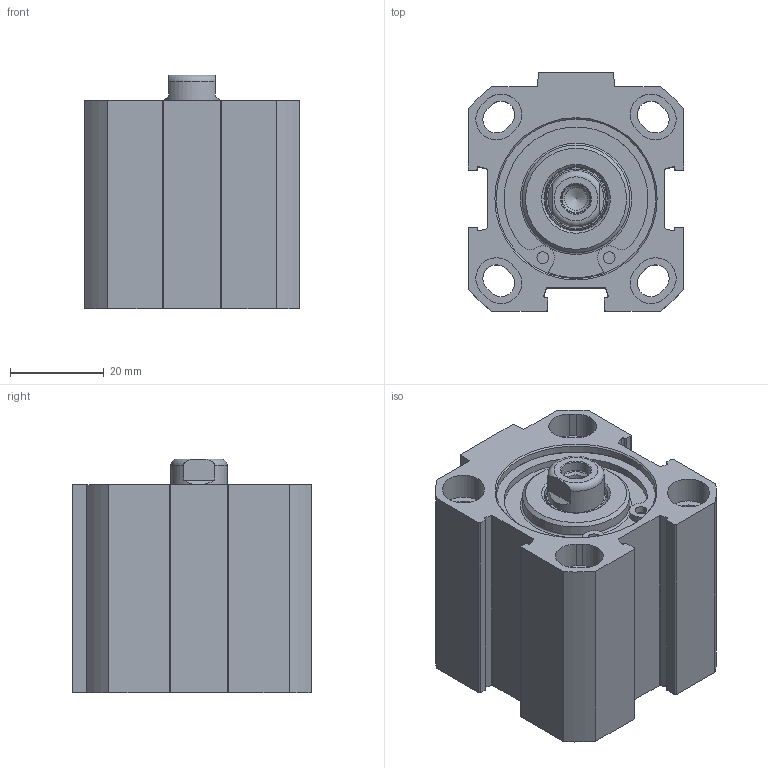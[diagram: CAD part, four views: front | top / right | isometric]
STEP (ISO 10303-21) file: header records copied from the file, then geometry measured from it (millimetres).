
FILE_DESCRIPTION(/* description */ ('Unknown'),/* implementation_level */ '2;1');
FILE_NAME(/* name */ 'FEN 32_5',/* time_stamp */ '2026-06-09T09:54:31+02:00',/* author */ ('Unknown'),/* organization */ ('Unknown'),/* preprocessor_version */ 'ST-DEVELOPER v18.102',/* originating_system */ 'Solid Edge',/* authorisation */ 'Unknown');
FILE_SCHEMA (('AUTOMOTIVE_DESIGN {1 0 10303 214 3 1 1}'));
Length unit declared in the file: millimetre
Products named in the file (5): FEN 32_5; Kolbenstange; Profilrohr; Kit_1; Kit_2
Assembly tree (4 placements, depth 2):
  FEN 32_5
    Kolbenstange
    Profilrohr
    Kit_1
    Kit_2
Bounding box: 46 x 51 x 50 mm (x, y, z)
Volume: 75115.5 mm3; surface area: 31924.4 mm2
Topology: 4 solids, 4 shells, 233 faces, 569 edges, 369 vertices
Faces by surface type: plane 103, cylinder 94, cone 25, torus 11
Full cylindrical faces by diameter (mm): 1.6 x2, 2.5 x4, 4.917 x2, 6.25 x1, 8.566 x4, 12 x1, 12.54 x1, 13.7 x1, 16.32 x1, 16.5 x1, 23 x2, 32 x2, 33.7 x4, 34.1 x2, 35.8 x2
Entity records: 8231 total; most frequent: CARTESIAN_POINT 1177, DIRECTION 1176, ORIENTED_EDGE 966, EDGE_CURVE 483, AXIS2_PLACEMENT_3D 461, VERTEX_POINT 350, FACE_BOUND 341, EDGE_LOOP 340
